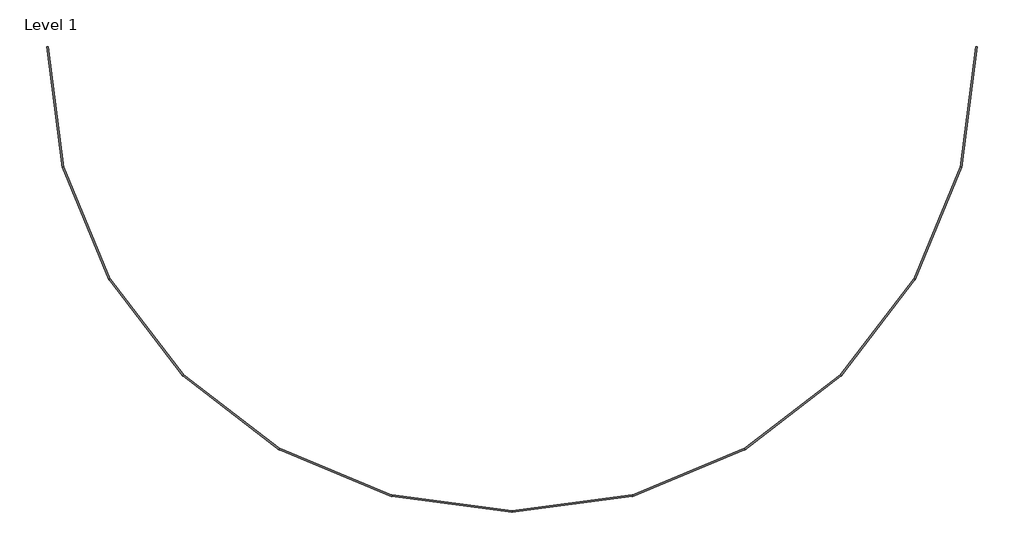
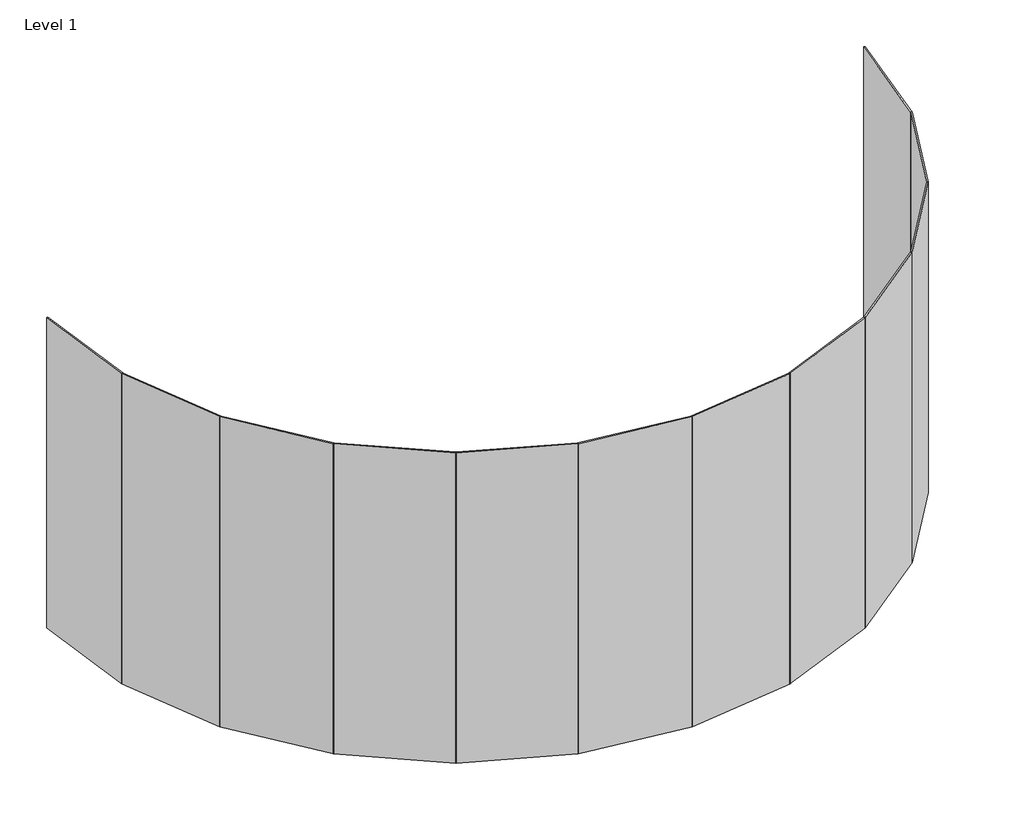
# One storey: 12 plates.
"""IFC4 building model written with IfcOpenShell, lengths in millimetres."""

from ifc_helpers import new_model, si_unit, origin, place, context, project, spatial, transform, mapped, element, save
from components import system_panel_glazed_6a2f852f

model = new_model("IFC4")

# Units and contexts
model_context = context("Model", 3, world=origin())
ifc_project = project(units=[si_unit("LENGTHUNIT", "METRE", prefix="MILLI")], contexts=[model_context])

# Site, building, storey
site = spatial("IfcSite", under=ifc_project)
building = spatial("IfcBuilding", under=site)
storey = spatial("IfcBuildingStorey", under=building, Name="Level 1", Elevation=0.0)

# Plates
placement = place(None, origin())
system_panel_glazed_shape = system_panel_glazed_6a2f852f(model_context)
element("IfcPlate", 1, ObjectType="System Panel : Glazed", at=placement, inside=storey, context=model_context, shape_type="MappedRepresentation", body=[
    mapped(system_panel_glazed_shape, transform((7258.3257546, 1945.1917159, 0.0), x_axis=(-0.13052619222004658, -0.991444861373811, 0.0), y_axis=(0.991444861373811, -0.13052619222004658, 0.0), z_axis=(0.0, 0.0, 1.0))),
])
element("IfcPlate", 2, ObjectType="System Panel : Glazed", at=placement, inside=storey, context=model_context, shape_type="MappedRepresentation", body=[
    mapped(system_panel_glazed_shape, transform((6747.882543, 40.1917159, 0.0), x_axis=(-0.3826834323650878, -0.9238795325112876, 0.0), y_axis=(0.9238795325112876, -0.3826834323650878, 0.0), z_axis=(0.0, 0.0, 1.0))),
])
element("IfcPlate", 3, ObjectType="System Panel : Glazed", at=placement, inside=storey, context=model_context, shape_type="MappedRepresentation", body=[
    mapped(system_panel_glazed_shape, transform((5761.7819812, -1667.7845586, 0.0), x_axis=(-0.6087614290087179, -0.7933533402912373, 0.0), y_axis=(0.7933533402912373, -0.6087614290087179, 0.0), z_axis=(0.0, 0.0, 1.0))),
])
element("IfcPlate", 4, ObjectType="System Panel : Glazed", at=placement, inside=storey, context=model_context, shape_type="MappedRepresentation", body=[
    mapped(system_panel_glazed_shape, transform((4367.2251927, -3062.341347, 0.0), x_axis=(-0.793353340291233, -0.6087614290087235, 0.0), y_axis=(0.6087614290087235, -0.793353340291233, 0.0), z_axis=(0.0, 0.0, 1.0))),
])
element("IfcPlate", 5, ObjectType="System Panel : Glazed", at=placement, inside=storey, context=model_context, shape_type="MappedRepresentation", body=[
    mapped(system_panel_glazed_shape, transform((2659.2489183, -4048.4419089, 0.0), x_axis=(-0.9238795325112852, -0.3826834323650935, 0.0), y_axis=(0.3826834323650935, -0.9238795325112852, 0.0), z_axis=(0.0, 0.0, 1.0))),
])
element("IfcPlate", 6, ObjectType="System Panel : Glazed", at=placement, inside=storey, context=model_context, shape_type="MappedRepresentation", body=[
    mapped(system_panel_glazed_shape, transform((754.2489183, -4558.8851204, 0.0), x_axis=(-0.99144486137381, -0.13052619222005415, 0.0), y_axis=(0.13052619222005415, -0.99144486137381, 0.0), z_axis=(0.0, 0.0, 1.0))),
])
element("IfcPlate", 7, ObjectType="System Panel : Glazed", at=placement, inside=storey, context=model_context, shape_type="MappedRepresentation", body=[
    mapped(system_panel_glazed_shape, transform((-1217.9522054, -4558.8851204, 0.0), x_axis=(-0.99144486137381, 0.13052619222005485, 0.0), y_axis=(-0.13052619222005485, -0.99144486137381, 0.0), z_axis=(0.0, 0.0, 1.0))),
])
element("IfcPlate", 8, ObjectType="System Panel : Glazed", at=placement, inside=storey, context=model_context, shape_type="MappedRepresentation", body=[
    mapped(system_panel_glazed_shape, transform((-7722.0290417, 1945.1917159, 0.0), x_axis=(-0.13052619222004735, 0.9914448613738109, 0.0), y_axis=(-0.9914448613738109, -0.13052619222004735, 0.0), z_axis=(0.0, 0.0, 1.0))),
])
element("IfcPlate", 9, ObjectType="System Panel : Glazed", at=placement, inside=storey, context=model_context, shape_type="MappedRepresentation", body=[
    mapped(system_panel_glazed_shape, transform((-7211.5858302, 40.1917159, 0.0), x_axis=(-0.3826834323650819, 0.9238795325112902, 0.0), y_axis=(-0.9238795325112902, -0.3826834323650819, 0.0), z_axis=(0.0, 0.0, 1.0))),
])
element("IfcPlate", 10, ObjectType="System Panel : Glazed", at=placement, inside=storey, context=model_context, shape_type="MappedRepresentation", body=[
    mapped(system_panel_glazed_shape, transform((-6225.4852683, -1667.7845586, 0.0), x_axis=(-0.6087614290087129, 0.7933533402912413, 0.0), y_axis=(-0.7933533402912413, -0.6087614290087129, 0.0), z_axis=(0.0, 0.0, 1.0))),
])
element("IfcPlate", 11, ObjectType="System Panel : Glazed", at=placement, inside=storey, context=model_context, shape_type="MappedRepresentation", body=[
    mapped(system_panel_glazed_shape, transform((-4830.9284799, -3062.341347, 0.0), x_axis=(-0.7933533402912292, 0.6087614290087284, 0.0), y_axis=(-0.6087614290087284, -0.7933533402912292, 0.0), z_axis=(0.0, 0.0, 1.0))),
])
element("IfcPlate", 12, ObjectType="System Panel : Glazed", at=placement, inside=storey, context=model_context, shape_type="MappedRepresentation", body=[
    mapped(system_panel_glazed_shape, transform((-3122.9522054, -4048.4419089, 0.0), x_axis=(-0.9238795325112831, 0.38268343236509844, 0.0), y_axis=(-0.38268343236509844, -0.9238795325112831, 0.0), z_axis=(0.0, 0.0, 1.0))),
])

save(model, "model.ifc")
